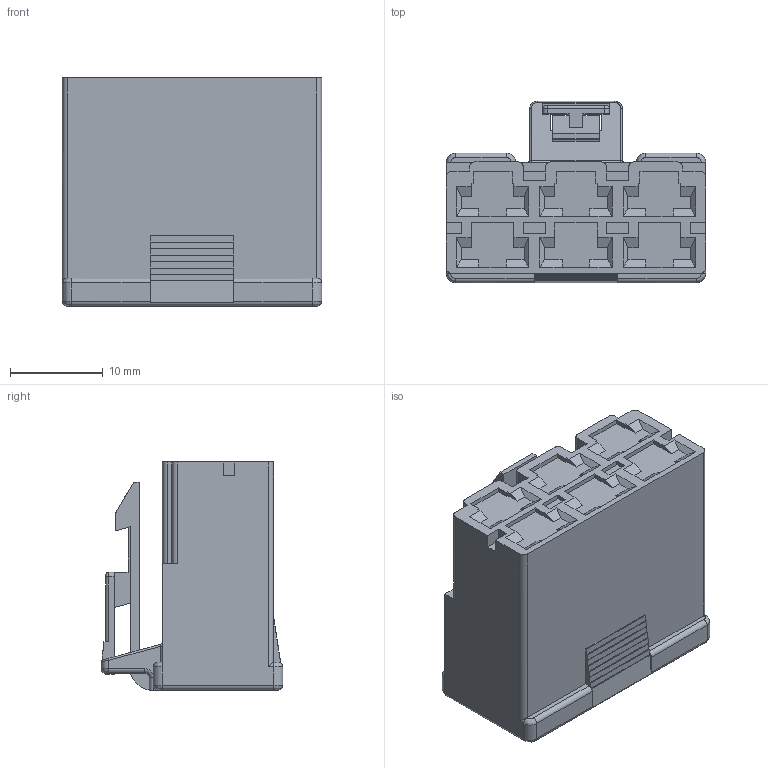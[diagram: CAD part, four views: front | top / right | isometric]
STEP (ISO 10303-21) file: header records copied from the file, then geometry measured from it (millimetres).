
FILE_DESCRIPTION((''),'2;1');
FILE_NAME('CU_MG610049_3D','2021-05-21T',('Administrator'),(''),'PRO/ENGINEER BY PARAMETRIC TECHNOLOGY CORPORATION, 2017170','PRO/ENGINEER BY PARAMETRIC TECHNOLOGY CORPORATION, 2017170','');
FILE_SCHEMA(('CONFIG_CONTROL_DESIGN','GEOMETRIC_VALIDATION_PROPERTIES_MIM'));
Length unit declared in the file: millimetre
Products named in the file (1): CU_MG610049_3D
Bounding box: 28 x 19.6 x 24.6 mm (x, y, z)
Volume: 8390.6 mm3; surface area: 3548.9 mm2
Topology: 1 solids, 1 shells, 344 faces, 937 edges, 605 vertices
Faces by surface type: plane 273, cylinder 50, bspline 20, torus 1
Entity records: 14324 total; most frequent: CARTESIAN_POINT 2590, ORIENTED_EDGE 1874, DIRECTION 1687, PRESENTATION_STYLE_ASSIGNMENT 938, STYLED_ITEM 938, CURVE_STYLE 937, EDGE_CURVE 937, VECTOR 805
